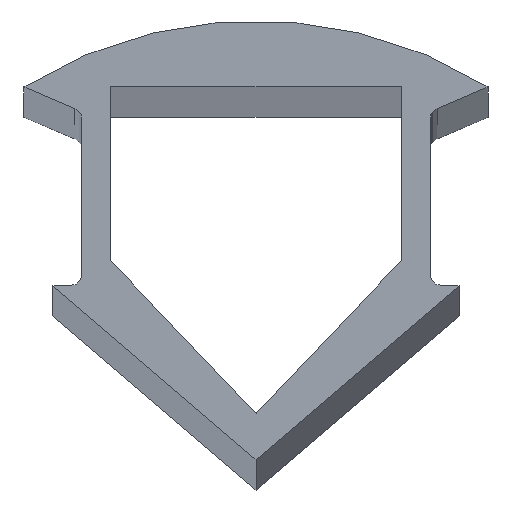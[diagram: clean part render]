
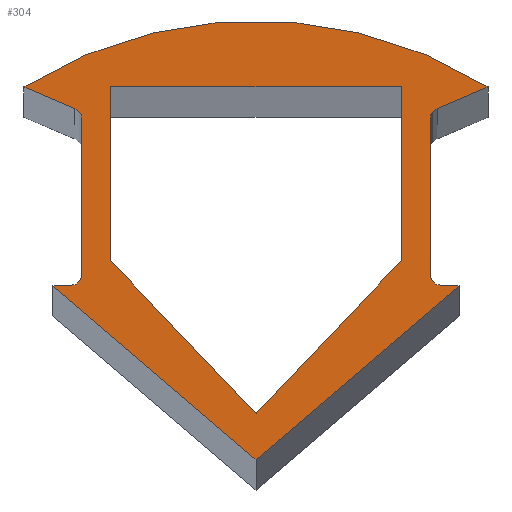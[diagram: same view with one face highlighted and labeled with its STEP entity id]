
A CAD part, top view. The second image highlights one B-rep face of the part: STEP entity #304.
In plain terms, the highlighted planar face has unit normal (0, 0, 1).
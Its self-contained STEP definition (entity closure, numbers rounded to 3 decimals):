
#10 = CARTESIAN_POINT ( 'NONE',  ( 3.2, 0., 150. ) ) ;
#12 = VERTEX_POINT ( 'NONE', #353 ) ;
#13 = VERTEX_POINT ( 'NONE', #272 ) ;
#17 = DIRECTION ( 'NONE',  ( 0.69, -0.724, 0. ) ) ;
#19 = LINE ( 'NONE', #382, #321 ) ;
#32 = VERTEX_POINT ( 'NONE', #472 ) ;
#34 = DIRECTION ( 'NONE',  ( 0., 0., -1. ) ) ;
#40 = EDGE_CURVE ( 'NONE', #389, #310, #50, .T. ) ;
#45 = DIRECTION ( 'NONE',  ( 0., 0., -1. ) ) ;
#47 = AXIS2_PLACEMENT_3D ( 'NONE', #699, #629, #554 ) ;
#50 = LINE ( 'NONE', #406, #280 ) ;
#53 = VERTEX_POINT ( 'NONE', #390 ) ;
#56 = DIRECTION ( 'NONE',  ( 0., 0., 1. ) ) ;
#66 = AXIS2_PLACEMENT_3D ( 'NONE', #408, #34, #675 ) ;
#71 = VERTEX_POINT ( 'NONE', #693 ) ;
#75 = ORIENTED_EDGE ( 'NONE', *, *, #191, .T. ) ;
#84 = VECTOR ( 'NONE', #208, 1000. ) ;
#89 = DIRECTION ( 'NONE',  ( 1., 0., 0. ) ) ;
#91 = ORIENTED_EDGE ( 'NONE', *, *, #322, .F. ) ;
#93 = DIRECTION ( 'NONE',  ( 0.759, 0.651, 0. ) ) ;
#98 = CARTESIAN_POINT ( 'NONE',  ( -2.5, 0.425, 150. ) ) ;
#100 = DIRECTION ( 'NONE',  ( 0., -1., 0. ) ) ;
#101 = CIRCLE ( 'NONE', #66, 0.2 ) ;
#106 = EDGE_CURVE ( 'NONE', #331, #573, #701, .T. ) ;
#110 = VERTEX_POINT ( 'NONE', #242 ) ;
#112 = CARTESIAN_POINT ( 'NONE',  ( -2.5, 0.425, 150. ) ) ;
#119 = CARTESIAN_POINT ( 'NONE',  ( 3.2, 2.868, 150. ) ) ;
#121 = EDGE_CURVE ( 'NONE', #707, #389, #319, .T. ) ;
#122 = VECTOR ( 'NONE', #476, 1000. ) ;
#126 = ORIENTED_EDGE ( 'NONE', *, *, #162, .F. ) ;
#130 = CARTESIAN_POINT ( 'NONE',  ( 0., -3., 150. ) ) ;
#136 = EDGE_CURVE ( 'NONE', #12, #567, #445, .T. ) ;
#149 = ORIENTED_EDGE ( 'NONE', *, *, #121, .T. ) ;
#152 = CIRCLE ( 'NONE', #257, 0.2 ) ;
#161 = EDGE_LOOP ( 'NONE', ( #91, #367, #511, #126, #308 ) ) ;
#162 = EDGE_CURVE ( 'NONE', #567, #386, #364, .T. ) ;
#163 = ORIENTED_EDGE ( 'NONE', *, *, #685, .T. ) ;
#165 = DIRECTION ( 'NONE',  ( 0., 0., 1. ) ) ;
#168 = CARTESIAN_POINT ( 'NONE',  ( 4., 3.425, 150. ) ) ;
#169 = CARTESIAN_POINT ( 'NONE',  ( 0., -3., 150. ) ) ;
#171 = LINE ( 'NONE', #98, #421 ) ;
#172 = CARTESIAN_POINT ( 'NONE',  ( -3., 0.2, 150. ) ) ;
#188 = FACE_OUTER_BOUND ( 'NONE', #234, .T. ) ;
#191 = EDGE_CURVE ( 'NONE', #310, #392, #212, .T. ) ;
#194 = DIRECTION ( 'NONE',  ( 0.92, -0.391, 0. ) ) ;
#204 = CARTESIAN_POINT ( 'NONE',  ( -3., 0.2, 150. ) ) ;
#208 = DIRECTION ( 'NONE',  ( 0., -1., 0. ) ) ;
#212 = CIRCLE ( 'NONE', #47, 0.2 ) ;
#234 = EDGE_LOOP ( 'NONE', ( #282, #548, #540, #149, #501, #75, #163, #509, #264, #312, #504, #670, #275 ) ) ;
#237 = CARTESIAN_POINT ( 'NONE',  ( -3.2, 0.2, 150. ) ) ;
#242 = CARTESIAN_POINT ( 'NONE',  ( -3.2, 0., 150. ) ) ;
#246 = EDGE_CURVE ( 'NONE', #573, #674, #247, .T. ) ;
#247 = LINE ( 'NONE', #172, #395 ) ;
#257 = AXIS2_PLACEMENT_3D ( 'NONE', #119, #45, #686 ) ;
#264 = ORIENTED_EDGE ( 'NONE', *, *, #303, .T. ) ;
#267 = EDGE_CURVE ( 'NONE', #110, #13, #19, .T. ) ;
#270 = CARTESIAN_POINT ( 'NONE',  ( -4., 3.425, 150. ) ) ;
#272 = CARTESIAN_POINT ( 'NONE',  ( -3.5, 0., 150. ) ) ;
#275 = ORIENTED_EDGE ( 'NONE', *, *, #246, .T. ) ;
#280 = VECTOR ( 'NONE', #335, 1000. ) ;
#282 = ORIENTED_EDGE ( 'NONE', *, *, #387, .T. ) ;
#286 = CARTESIAN_POINT ( 'NONE',  ( -2.5, 3.425, 150. ) ) ;
#295 = VECTOR ( 'NONE', #194, 1000. ) ;
#299 = DIRECTION ( 'NONE',  ( -1., 0., 0. ) ) ;
#303 = EDGE_CURVE ( 'NONE', #53, #404, #529, .T. ) ;
#304 = ADVANCED_FACE ( 'NONE', ( #188, #562 ), #314, .T. ) ;
#305 = DIRECTION ( 'NONE',  ( -1., 0., 0. ) ) ;
#308 = ORIENTED_EDGE ( 'NONE', *, *, #136, .F. ) ;
#310 = VERTEX_POINT ( 'NONE', #10 ) ;
#312 = ORIENTED_EDGE ( 'NONE', *, *, #682, .T. ) ;
#314 = PLANE ( 'NONE',  #491 ) ;
#319 = LINE ( 'NONE', #169, #575 ) ;
#321 = VECTOR ( 'NONE', #305, 1000. ) ;
#322 = EDGE_CURVE ( 'NONE', #32, #12, #656, .T. ) ;
#331 = VERTEX_POINT ( 'NONE', #374 ) ;
#335 = DIRECTION ( 'NONE',  ( -1., 0., 0. ) ) ;
#350 = LINE ( 'NONE', #270, #295 ) ;
#353 = CARTESIAN_POINT ( 'NONE',  ( 2.5, 3.425, 150. ) ) ;
#361 = VERTEX_POINT ( 'NONE', #424 ) ;
#364 = LINE ( 'NONE', #286, #84 ) ;
#367 = ORIENTED_EDGE ( 'NONE', *, *, #379, .F. ) ;
#374 = CARTESIAN_POINT ( 'NONE',  ( -3.122, 3.052, 150. ) ) ;
#378 = CARTESIAN_POINT ( 'NONE',  ( -2.5, 3.425, 150. ) ) ;
#379 = EDGE_CURVE ( 'NONE', #71, #32, #624, .T. ) ;
#380 = CARTESIAN_POINT ( 'NONE',  ( -4., 3.425, 150. ) ) ;
#382 = CARTESIAN_POINT ( 'NONE',  ( -3.5, 0., 150. ) ) ;
#386 = VERTEX_POINT ( 'NONE', #112 ) ;
#387 = EDGE_CURVE ( 'NONE', #674, #110, #101, .T. ) ;
#389 = VERTEX_POINT ( 'NONE', #530 ) ;
#390 = CARTESIAN_POINT ( 'NONE',  ( 3.122, 3.052, 150. ) ) ;
#391 = DIRECTION ( 'NONE',  ( 0.92, 0.391, 0. ) ) ;
#392 = VERTEX_POINT ( 'NONE', #458 ) ;
#394 = DIRECTION ( 'NONE',  ( 1., 0., 0. ) ) ;
#395 = VECTOR ( 'NONE', #100, 1000. ) ;
#401 = DIRECTION ( 'NONE',  ( 0.759, -0.651, 0. ) ) ;
#404 = VERTEX_POINT ( 'NONE', #168 ) ;
#406 = CARTESIAN_POINT ( 'NONE',  ( 3.5, 0., 150. ) ) ;
#408 = CARTESIAN_POINT ( 'NONE',  ( -3.2, 0.2, 150. ) ) ;
#410 = DIRECTION ( 'NONE',  ( 0., 1., 0. ) ) ;
#417 = CARTESIAN_POINT ( 'NONE',  ( -3., 2.868, 150. ) ) ;
#421 = VECTOR ( 'NONE', #17, 1000. ) ;
#424 = CARTESIAN_POINT ( 'NONE',  ( 3., 2.868, 150. ) ) ;
#434 = VECTOR ( 'NONE', #299, 1000. ) ;
#440 = VECTOR ( 'NONE', #508, 1000. ) ;
#445 = LINE ( 'NONE', #378, #434 ) ;
#456 = CARTESIAN_POINT ( 'NONE',  ( 4., 3.425, 150. ) ) ;
#458 = CARTESIAN_POINT ( 'NONE',  ( 3., 0.2, 150. ) ) ;
#459 = DIRECTION ( 'NONE',  ( 0., 0., -1. ) ) ;
#460 = CARTESIAN_POINT ( 'NONE',  ( 0., -3., 150. ) ) ;
#468 = CARTESIAN_POINT ( 'NONE',  ( 0., -3., 150. ) ) ;
#472 = CARTESIAN_POINT ( 'NONE',  ( 2.5, 0.425, 150. ) ) ;
#476 = DIRECTION ( 'NONE',  ( 0.69, 0.724, 0. ) ) ;
#478 = CARTESIAN_POINT ( 'NONE',  ( 3., 0.2, 150. ) ) ;
#491 = AXIS2_PLACEMENT_3D ( 'NONE', #237, #165, #89 ) ;
#501 = ORIENTED_EDGE ( 'NONE', *, *, #40, .T. ) ;
#504 = ORIENTED_EDGE ( 'NONE', *, *, #574, .T. ) ;
#508 = DIRECTION ( 'NONE',  ( 0., 1., 0. ) ) ;
#509 = ORIENTED_EDGE ( 'NONE', *, *, #590, .T. ) ;
#511 = ORIENTED_EDGE ( 'NONE', *, *, #516, .F. ) ;
#516 = EDGE_CURVE ( 'NONE', #386, #71, #171, .T. ) ;
#525 = VERTEX_POINT ( 'NONE', #380 ) ;
#527 = VECTOR ( 'NONE', #391, 1000. ) ;
#529 = LINE ( 'NONE', #456, #527 ) ;
#530 = CARTESIAN_POINT ( 'NONE',  ( 3.5, 0., 150. ) ) ;
#531 = CARTESIAN_POINT ( 'NONE',  ( -3.2, 2.868, 150. ) ) ;
#539 = LINE ( 'NONE', #468, #559 ) ;
#540 = ORIENTED_EDGE ( 'NONE', *, *, #593, .T. ) ;
#541 = VECTOR ( 'NONE', #410, 1000. ) ;
#548 = ORIENTED_EDGE ( 'NONE', *, *, #267, .T. ) ;
#550 = CARTESIAN_POINT ( 'NONE',  ( 0., -2.2, 150. ) ) ;
#552 = LINE ( 'NONE', #478, #541 ) ;
#554 = DIRECTION ( 'NONE',  ( -1., 0., 0. ) ) ;
#559 = VECTOR ( 'NONE', #401, 1000. ) ;
#562 = FACE_BOUND ( 'NONE', #161, .T. ) ;
#567 = VERTEX_POINT ( 'NONE', #702 ) ;
#573 = VERTEX_POINT ( 'NONE', #417 ) ;
#574 = EDGE_CURVE ( 'NONE', #525, #331, #350, .T. ) ;
#575 = VECTOR ( 'NONE', #93, 1000. ) ;
#577 = AXIS2_PLACEMENT_3D ( 'NONE', #130, #56, #695 ) ;
#584 = CARTESIAN_POINT ( 'NONE',  ( 2.5, 3.425, 150. ) ) ;
#590 = EDGE_CURVE ( 'NONE', #361, #53, #152, .T. ) ;
#591 = CIRCLE ( 'NONE', #577, 7.568 ) ;
#593 = EDGE_CURVE ( 'NONE', #13, #707, #539, .T. ) ;
#624 = LINE ( 'NONE', #550, #122 ) ;
#629 = DIRECTION ( 'NONE',  ( 0., 0., -1. ) ) ;
#635 = AXIS2_PLACEMENT_3D ( 'NONE', #531, #459, #394 ) ;
#656 = LINE ( 'NONE', #584, #440 ) ;
#670 = ORIENTED_EDGE ( 'NONE', *, *, #106, .T. ) ;
#674 = VERTEX_POINT ( 'NONE', #204 ) ;
#675 = DIRECTION ( 'NONE',  ( 1., 0., 0. ) ) ;
#682 = EDGE_CURVE ( 'NONE', #404, #525, #591, .T. ) ;
#685 = EDGE_CURVE ( 'NONE', #392, #361, #552, .T. ) ;
#686 = DIRECTION ( 'NONE',  ( -1., 0., 0. ) ) ;
#693 = CARTESIAN_POINT ( 'NONE',  ( 0., -2.2, 150. ) ) ;
#695 = DIRECTION ( 'NONE',  ( 1., 0., 0. ) ) ;
#699 = CARTESIAN_POINT ( 'NONE',  ( 3.2, 0.2, 150. ) ) ;
#701 = CIRCLE ( 'NONE', #635, 0.2 ) ;
#702 = CARTESIAN_POINT ( 'NONE',  ( -2.5, 3.425, 150. ) ) ;
#707 = VERTEX_POINT ( 'NONE', #460 ) ;
